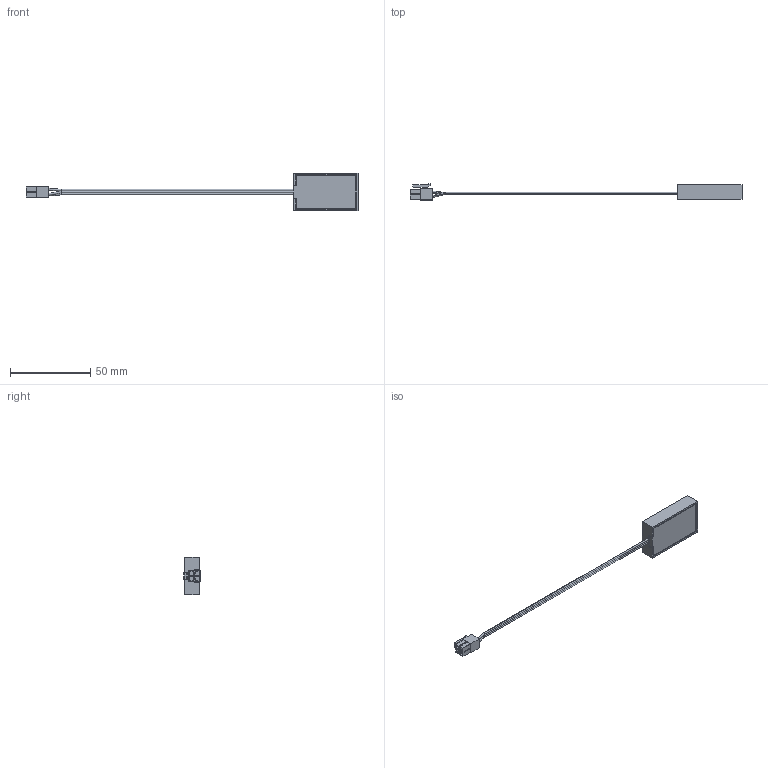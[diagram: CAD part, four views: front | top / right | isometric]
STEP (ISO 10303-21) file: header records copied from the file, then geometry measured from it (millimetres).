
FILE_DESCRIPTION (( 'STEP AP203' ), '1' );
FILE_NAME ('Wireless Controller.STEP', '2024-08-22T12:39:43', ( '' ), ( '' ), 'SwSTEP 2.0', 'SolidWorks 2020', '' );
FILE_SCHEMA (( 'CONFIG_CONTROL_DESIGN' ));
Length unit declared in the file: millimetre
Products named in the file (3): Connector; Wireless Controller; Lectron Wireless Sensors - Sensor Receiver
Assembly tree (2 placements, depth 2):
  Wireless Controller
    Lectron Wireless Sensors - Sensor Receiver
    Connector
Bounding box: 207.44 x 10 x 23.5 mm (x, y, z)
Volume: 9392.3 mm3; surface area: 5900.7 mm2
Topology: 2 solids, 2 shells, 137 faces, 340 edges, 224 vertices
Faces by surface type: plane 118, cylinder 13, bspline 6
Entity records: 4451 total; most frequent: CARTESIAN_POINT 886, ORIENTED_EDGE 680, DIRECTION 638, EDGE_CURVE 340, LINE 302, VECTOR 302, VERTEX_POINT 224, AXIS2_PLACEMENT_3D 168
